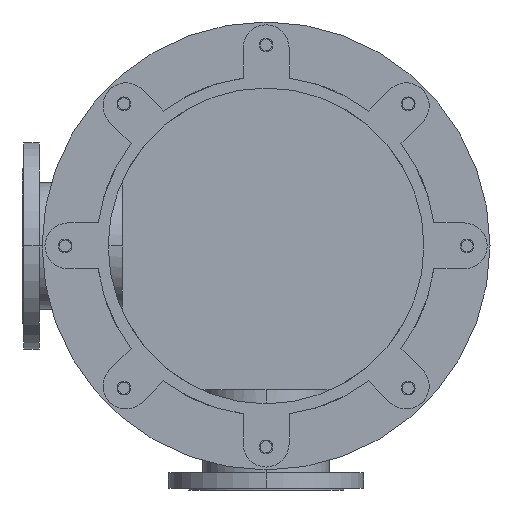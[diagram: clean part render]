
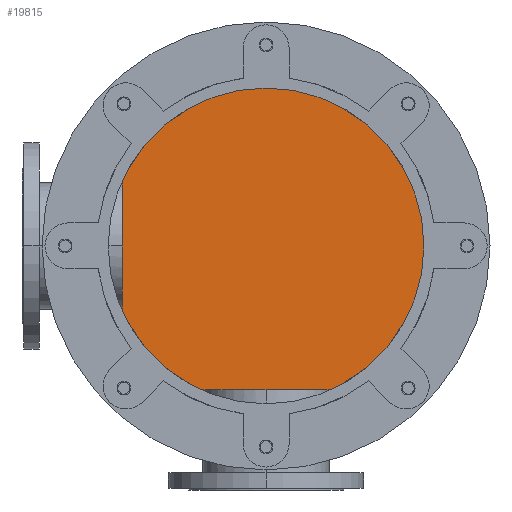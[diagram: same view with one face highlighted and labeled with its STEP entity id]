
A CAD part, front view. The second image highlights one B-rep face of the part: STEP entity #19815.
In plain terms, the highlighted planar face has unit normal (0, -1, 0).
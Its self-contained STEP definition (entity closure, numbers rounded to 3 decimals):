
#3711=CARTESIAN_POINT('',(0.,1359.,0.));
#3712=DIRECTION('',(0.,-1.,0.));
#3713=DIRECTION('',(0.,0.,-1.));
#3714=AXIS2_PLACEMENT_3D('',#3711,#3712,#3713);
#4096=CARTESIAN_POINT('',(0.,1359.,0.));
#4097=DIRECTION('',(0.,-1.,0.));
#4098=DIRECTION('',(0.,0.,1.));
#4099=AXIS2_PLACEMENT_3D('',#4096,#4097,#4098);
#9170=CARTESIAN_POINT('',(0.,1359.,290.));
#9171=CARTESIAN_POINT('',(0.,1359.,-290.));
#9172=VERTEX_POINT('',#9170);
#9173=VERTEX_POINT('',#9171);
#19806=CARTESIAN_POINT('',(0.,1359.,0.));
#19807=DIRECTION('',(0.,1.,0.));
#19808=DIRECTION('',(0.,0.,-1.));
#19809=AXIS2_PLACEMENT_3D('',#19806,#19807,#19808);
#19810=PLANE('',#19809);
#19811=ORIENTED_EDGE('',*,*,#15860,.F.);
#19812=ORIENTED_EDGE('',*,*,#15550,.F.);
#19813=EDGE_LOOP('',(#19811,#19812));
#19814=FACE_OUTER_BOUND('',#19813,.F.);
#19815=ADVANCED_FACE('',(#19814),#19810,.F.);
#3715=CIRCLE('',#3714,290.);
#4100=CIRCLE('',#4099,290.);
#15550=EDGE_CURVE('',#9173,#9172,#3715,.T.);
#15860=EDGE_CURVE('',#9172,#9173,#4100,.T.);
